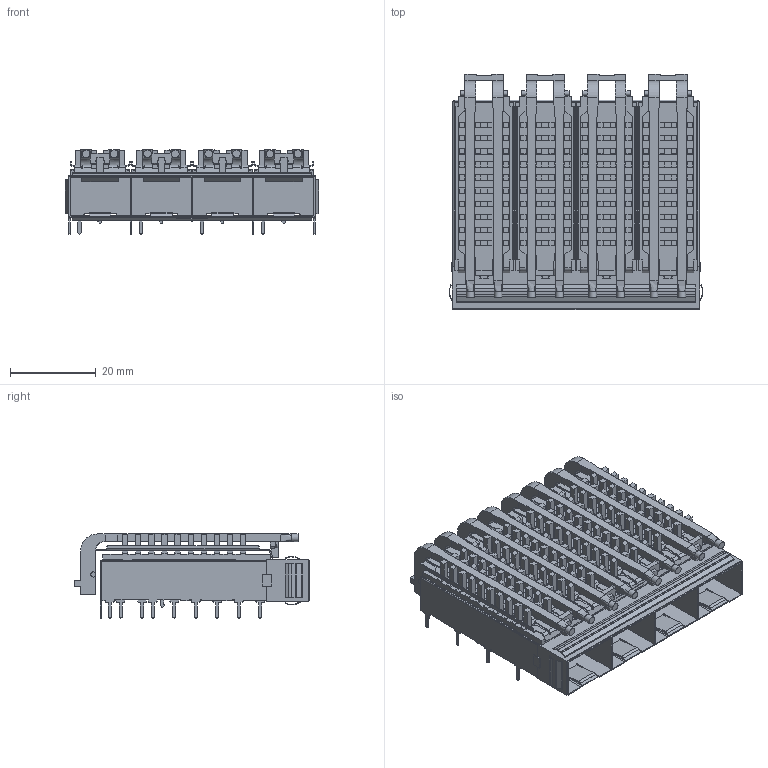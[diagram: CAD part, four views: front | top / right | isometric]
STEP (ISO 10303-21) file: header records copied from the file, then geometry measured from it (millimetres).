
FILE_DESCRIPTION(/* description */ (''),/* implementation_level */ '2;1');
FILE_NAME(/* name */ 'HT10-2N34003-12N.stp',/* time_stamp */ '2026-08-31T11:34:39+08:00',/* author */ (''),/* organization */ (''),/* preprocessor_version */ 'ST-DEVELOPER v16.7',/* originating_system */ 'SIEMENS PLM Software NX 1847',/* authorisation */ '');
FILE_SCHEMA (('AUTOMOTIVE_DESIGN { 1 0 10303 214 3 1 1 1 }'));
Products named in the file (1): Admi2564BD17m4qd
Bounding box: 59.05 x 54.75 x 19.58 mm (x, y, z)
Volume: 9544.4 mm3; surface area: 27863.3 mm2
Topology: 1 solids, 1 shells, 2483 faces, 7253 edges, 4730 vertices
Faces by surface type: plane 1940, cylinder 477, bspline 64, sphere 2
Full cylindrical faces by diameter (mm): 1.8 x8
Entity records: 82123 total; most frequent: CARTESIAN_POINT 15953, ORIENTED_EDGE 14470, DIRECTION 12933, EDGE_CURVE 7235, LINE 6153, VECTOR 6153, VERTEX_POINT 4722, AXIS2_PLACEMENT_3D 3390
